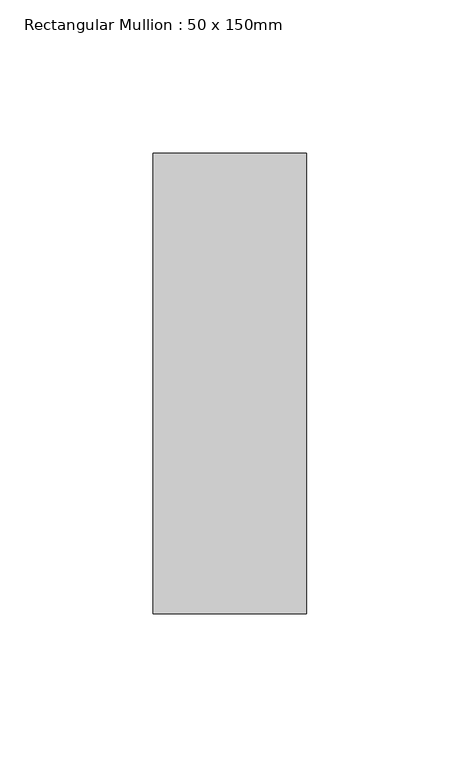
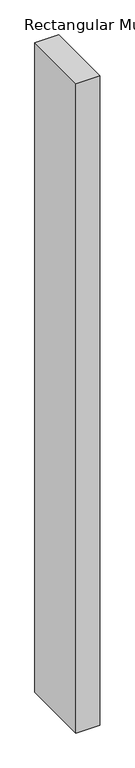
"""IFC4 building model written with IfcOpenShell, lengths in millimetres: member geometry, Rectangular Mullion : 50 x 150mm."""

from ifc_helpers import new_model, si_unit, frame, origin, place, context, project, spatial, polyline, outline, extrude, source, transform, mapped, element, save


def rectangular_mullion_50_x_150mm_f26db0f6(model_context):
    return source(origin(), model_context, "Body", "SweptSolid", [
        extrude(outline(polyline([(0.0, 75.0), (0.0, -75.0), (-50.0, -75.0), (-50.0, 75.0), (0.0, 75.0)])), frame((0.0, 0.0, -1448.5), z_axis=(0.0, 0.0, 1.0), x_axis=(1.0, 0.0, 0.0)), (0.0, 0.0, 1.0), 1448.5),
    ])


if __name__ == "__main__":
    model = new_model("IFC4")
    model_context = context("Model", 3, world=origin())
    ifc_project = project(units=[si_unit("LENGTHUNIT", "METRE", prefix="MILLI")], contexts=[model_context])
    site = spatial("IfcSite", under=ifc_project)
    building = spatial("IfcBuilding", under=site)
    placement = place(None, origin())
    rectangular_mullion_50_x_150mm_shape = rectangular_mullion_50_x_150mm_f26db0f6(model_context)
    element("IfcMember", 1, ObjectType="Rectangular Mullion : 50 x 150mm", at=placement, inside=building, context=model_context, shape_type="MappedRepresentation", body=[
        mapped(rectangular_mullion_50_x_150mm_shape, transform((0.0, 0.0, 0.0), x_axis=(1.0, 0.0, 0.0), y_axis=(0.0, 1.0, 0.0), z_axis=(0.0, 0.0, 1.0))),
    ])
    save(model, "model.ifc")
